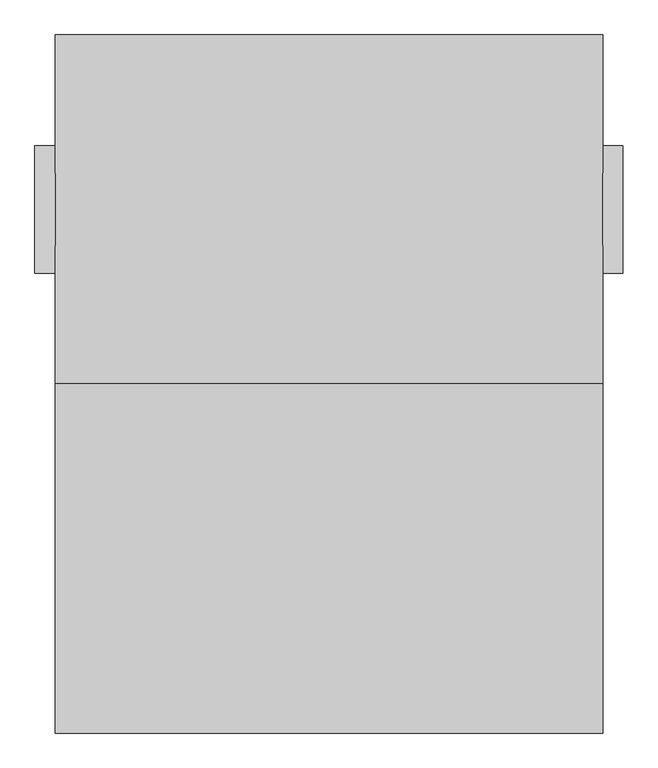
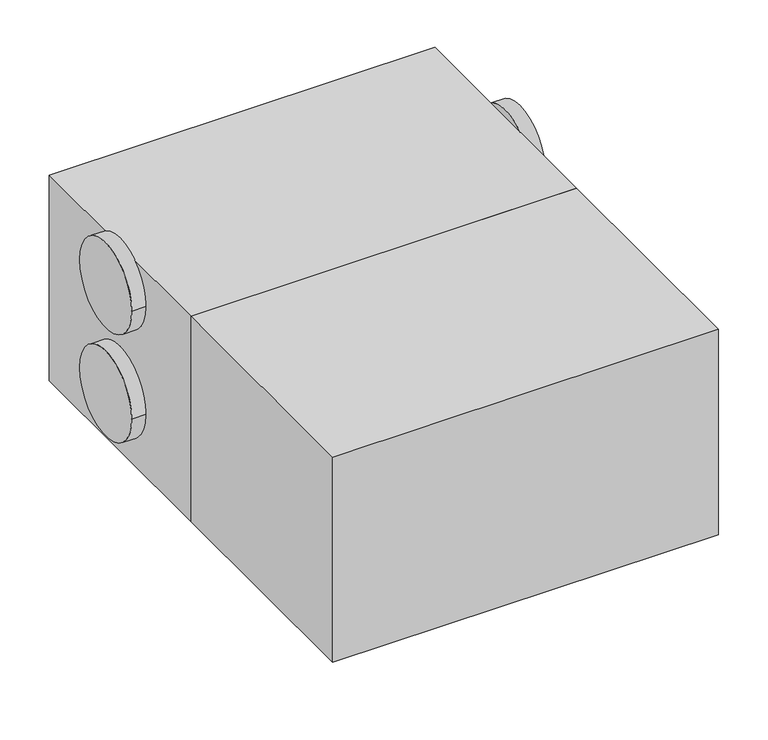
"""IFC4 building model written with IfcOpenShell, lengths in millimetres: proxy geometry, ADSK_КПВУ RIVIERA-EC HRE_круглая : Riviera-EC HRE 1400."""

from ifc_helpers import new_model, si_unit, point, frame, frame_2d, origin, place, context, project, spatial, polyline, circle_curve, trimmed, segment, composite_curve, outline, extrude, source, transform, mapped, element, save


def mechanical_equipment_7b883cb3(model_context):
    return source(origin(), model_context, "Body", "SweptSolid", [
        extrude(outline(polyline([(941.0, -430.0), (941.0, -1290.0), (-409.0, -1290.0), (-409.0, -430.0), (941.0, -430.0)])), frame((0.0, 0.0, 140.0), z_axis=(0.0, 0.0, 1.0), x_axis=(1.0, 0.0, 0.0)), (0.0, 0.0, 1.0), 760.0),
        extrude(outline(polyline([(941.0, 430.0), (941.0, -430.0), (-409.0, -430.0), (-409.0, 430.0), (941.0, 430.0)])), frame((0.0, 0.0, 140.0), z_axis=(0.0, 0.0, 1.0), x_axis=(1.0, 0.0, 0.0)), (0.0, 0.0, 1.0), 760.0),
        extrude(outline(composite_curve([segment(trimmed(circle_curve(frame_2d((0.0, 771.0)), 157.5), [point((-157.5, 771.0))], [point((157.5, 771.0))], False, "CARTESIAN"), True, "CONTINUOUS"), segment(trimmed(circle_curve(frame_2d((0.0, 771.0)), 157.5), [point((157.5, 771.0))], [point((-157.5, 771.0))], False, "CARTESIAN"), True, "CONTINUOUS")], self_intersect=False)), frame((-459.0, 0.0, 0.0), z_axis=(1.0, 0.0, 0.0), x_axis=(0.0, 1.0, 0.0)), (0.0, 0.0, 1.0), 50.0),
        extrude(outline(composite_curve([segment(trimmed(circle_curve(frame_2d((0.0, 371.0)), 157.5), [point((-157.5, 371.0))], [point((157.5, 371.0))], False, "CARTESIAN"), True, "CONTINUOUS"), segment(trimmed(circle_curve(frame_2d((0.0, 371.0)), 157.5), [point((157.5, 371.0))], [point((-157.5, 371.0))], False, "CARTESIAN"), True, "CONTINUOUS")], self_intersect=False)), frame((-459.0, 0.0, 0.0), z_axis=(1.0, 0.0, 0.0), x_axis=(0.0, 1.0, 0.0)), (0.0, 0.0, 1.0), 50.0),
        extrude(outline(composite_curve([segment(trimmed(circle_curve(frame_2d((0.0, 771.0)), 157.5), [point((-157.5, 771.0))], [point((157.5, 771.0))], False, "CARTESIAN"), True, "CONTINUOUS"), segment(trimmed(circle_curve(frame_2d((0.0, 771.0)), 157.5), [point((157.5, 771.0))], [point((-157.5, 771.0))], False, "CARTESIAN"), True, "CONTINUOUS")], self_intersect=False)), frame((941.0, 0.0, 0.0), z_axis=(1.0, 0.0, 0.0), x_axis=(0.0, 1.0, 0.0)), (0.0, 0.0, 1.0), 50.0),
        extrude(outline(composite_curve([segment(trimmed(circle_curve(frame_2d((0.0, 371.0)), 157.5), [point((-157.5, 371.0))], [point((157.5, 371.0))], False, "CARTESIAN"), True, "CONTINUOUS"), segment(trimmed(circle_curve(frame_2d((0.0, 371.0)), 157.5), [point((157.5, 371.0))], [point((-157.5, 371.0))], False, "CARTESIAN"), True, "CONTINUOUS")], self_intersect=False)), frame((941.0, 0.0, 0.0), z_axis=(1.0, 0.0, 0.0), x_axis=(0.0, 1.0, 0.0)), (0.0, 0.0, 1.0), 50.0),
        extrude(outline(polyline([(0.0, -229.0), (140.0, -229.0), (140.0, -239.0), (10.0, -239.0), (10.0, -279.0), (140.0, -279.0), (140.0, -289.0), (0.0, -289.0), (0.0, -229.0)])), frame((0.0, -430.0, 0.0), z_axis=(0.0, 1.0, 0.0), x_axis=(0.0, 0.0, 1.0)), (0.0, 0.0, 1.0), 860.0),
        extrude(outline(polyline([(0.0, 821.0), (140.0, 821.0), (140.0, 811.0), (10.0, 811.0), (10.0, 771.0), (140.0, 771.0), (140.0, 761.0), (0.0, 761.0), (0.0, 821.0)])), frame((0.0, -430.0, 0.0), z_axis=(0.0, 1.0, 0.0), x_axis=(0.0, 0.0, 1.0)), (0.0, 0.0, 1.0), 860.0),
    ])


if __name__ == "__main__":
    model = new_model("IFC4")
    model_context = context("Model", 3, world=origin())
    ifc_project = project(units=[si_unit("LENGTHUNIT", "METRE", prefix="MILLI")], contexts=[model_context])
    site = spatial("IfcSite", under=ifc_project)
    building = spatial("IfcBuilding", under=site)
    placement = place(None, origin())
    mechanical_equipment_shape = mechanical_equipment_7b883cb3(model_context)
    element("IfcBuildingElementProxy", 1, Name="ADSK_КПВУ RIVIERA-EC HRE_круглая : Riviera-EC HRE 1400", ObjectType="ADSK_КПВУ RIVIERA-EC HRE_круглая : Riviera-EC HRE 1400", at=placement, inside=building, context=model_context, shape_type="MappedRepresentation", body=[
        mapped(mechanical_equipment_shape, transform((0.0, 0.0, 0.0), x_axis=(1.0, 0.0, 0.0), y_axis=(0.0, 1.0, 0.0), z_axis=(0.0, 0.0, 1.0))),
    ])
    save(model, "model.ifc")
